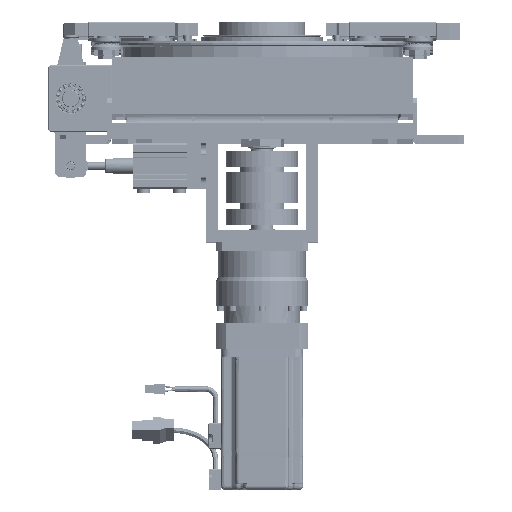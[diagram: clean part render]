
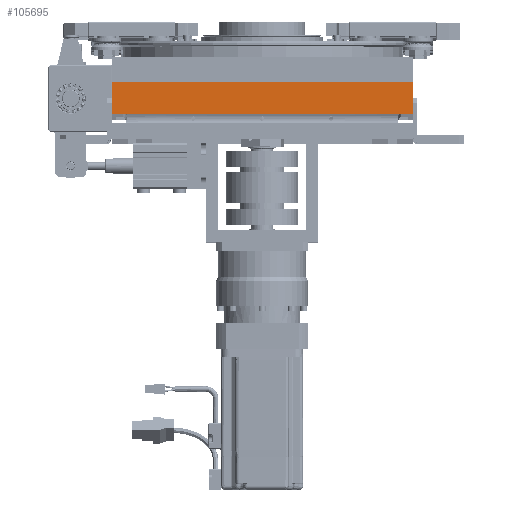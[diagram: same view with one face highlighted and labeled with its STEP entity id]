
A CAD part, top view. The second image highlights one B-rep face of the part: STEP entity #105695.
In plain terms, the highlighted planar face has unit normal (0, 0, 1).
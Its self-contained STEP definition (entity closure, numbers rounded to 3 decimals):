
#6319 = EDGE_CURVE ( 'NONE', #145390, #134946, #60070, .T. ) ;
#21348 = ORIENTED_EDGE ( 'NONE', *, *, #81694, .T. ) ;
#30004 = DIRECTION ( 'NONE',  ( 0., 1., 0. ) ) ;
#41986 = VECTOR ( 'NONE', #56660, 1000. ) ;
#49558 = DIRECTION ( 'NONE',  ( 0., -1., 0. ) ) ;
#54978 = CARTESIAN_POINT ( 'NONE',  ( 350., 15.825, 20. ) ) ;
#54994 = VERTEX_POINT ( 'NONE', #161942 ) ;
#55769 = PLANE ( 'NONE',  #97022 ) ;
#56660 = DIRECTION ( 'NONE',  ( -1., 0., 0. ) ) ;
#60070 = LINE ( 'NONE', #110699, #140401 ) ;
#68490 = VERTEX_POINT ( 'NONE', #110936 ) ;
#75515 = EDGE_LOOP ( 'NONE', ( #21348, #122150, #107713, #144499 ) ) ;
#76594 = EDGE_CURVE ( 'NONE', #54994, #68490, #126432, .T. ) ;
#81694 = EDGE_CURVE ( 'NONE', #145390, #54994, #156927, .T. ) ;
#88718 = VECTOR ( 'NONE', #30004, 1000. ) ;
#94517 = LINE ( 'NONE', #136618, #104502 ) ;
#97022 = AXIS2_PLACEMENT_3D ( 'NONE', #146108, #118621, #120823 ) ;
#104502 = VECTOR ( 'NONE', #49558, 1000. ) ;
#105695 = ADVANCED_FACE ( 'NONE', ( #133643 ), #55769, .F. ) ;
#107713 = ORIENTED_EDGE ( 'NONE', *, *, #123377, .T. ) ;
#110699 = CARTESIAN_POINT ( 'NONE',  ( 350., -15.825, 20. ) ) ;
#110936 = CARTESIAN_POINT ( 'NONE',  ( 0., 15.825, 20. ) ) ;
#112157 = CARTESIAN_POINT ( 'NONE',  ( 295., -15.825, 20. ) ) ;
#118621 = DIRECTION ( 'NONE',  ( 0., 0., -1. ) ) ;
#120823 = DIRECTION ( 'NONE',  ( -1., 0., 0. ) ) ;
#122150 = ORIENTED_EDGE ( 'NONE', *, *, #76594, .T. ) ;
#123377 = EDGE_CURVE ( 'NONE', #68490, #134946, #94517, .T. ) ;
#123542 = DIRECTION ( 'NONE',  ( -1., 0., 0. ) ) ;
#126432 = LINE ( 'NONE', #54978, #41986 ) ;
#133643 = FACE_OUTER_BOUND ( 'NONE', #75515, .T. ) ;
#134946 = VERTEX_POINT ( 'NONE', #139558 ) ;
#136618 = CARTESIAN_POINT ( 'NONE',  ( 0., 15.825, 20. ) ) ;
#139558 = CARTESIAN_POINT ( 'NONE',  ( 0., -15.825, 20. ) ) ;
#140401 = VECTOR ( 'NONE', #123542, 1000. ) ;
#144499 = ORIENTED_EDGE ( 'NONE', *, *, #6319, .F. ) ;
#145390 = VERTEX_POINT ( 'NONE', #112157 ) ;
#145653 = CARTESIAN_POINT ( 'NONE',  ( 295., -40., 20. ) ) ;
#146108 = CARTESIAN_POINT ( 'NONE',  ( 350., 15.825, 20. ) ) ;
#156927 = LINE ( 'NONE', #145653, #88718 ) ;
#161942 = CARTESIAN_POINT ( 'NONE',  ( 295., 15.825, 20. ) ) ;
